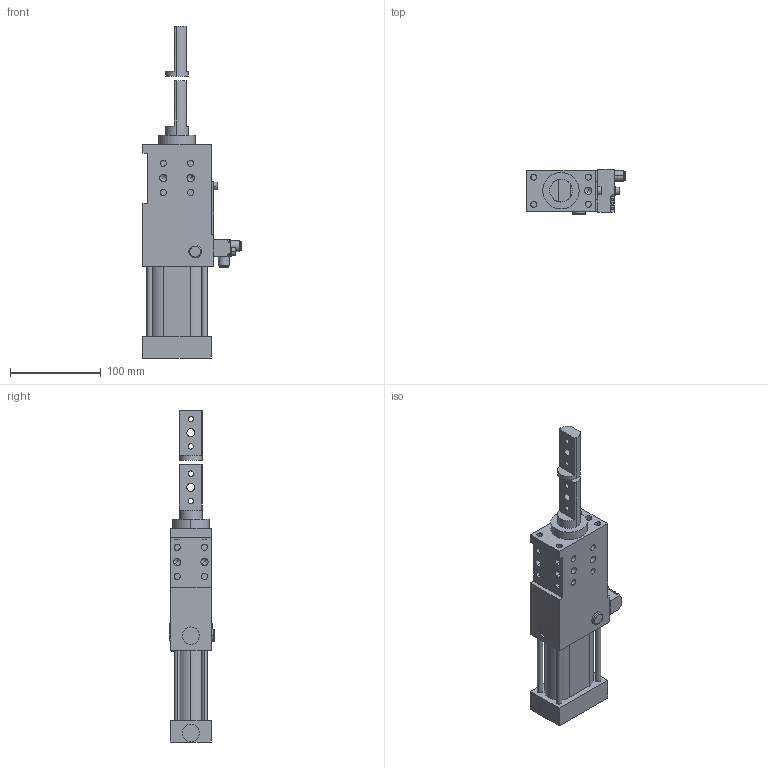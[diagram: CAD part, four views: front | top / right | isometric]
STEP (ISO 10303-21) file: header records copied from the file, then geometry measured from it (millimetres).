
FILE_DESCRIPTION(('CATIA V5 STEP Exchange'),'2;1');
FILE_NAME('G:\Konstruktion\Modelle\UPLOAD\SZK_40_1_BR3_A12_T12_TUENKERS.stp','2016-10-17T10:31:50+00:00',('none'),('none'),'CATIA Version 5 Release 19 SP 9 (IN-10)','CATIA V5 STEP AP214','none');
FILE_SCHEMA(('AUTOMOTIVE_DESIGN { 1 0 10303 214 1 1 1 1 }'));
Length unit declared in the file: millimetre
Products named in the file (1): SZK_40_1_BR3_A12_T12_TUENKERS
Bounding box: 108 x 49.5 x 365 mm (x, y, z)
Volume: 730649.9 mm3; surface area: 87036 mm2
Topology: 2 solids, 2 shells, 204 faces, 506 edges, 316 vertices
Faces by surface type: cylinder 96, plane 72, cone 18, sphere 12, torus 6
Entity records: 7139 total; most frequent: CARTESIAN_POINT 1271, ORIENTED_EDGE 960, DIRECTION 714, EDGE_CURVE 480, AXIS2_PLACEMENT_3D 362, VERTEX_POINT 316, EDGE_LOOP 264, CIRCLE 237
